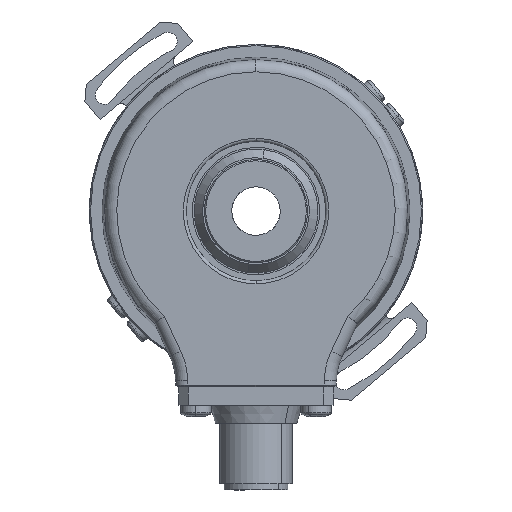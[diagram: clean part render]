
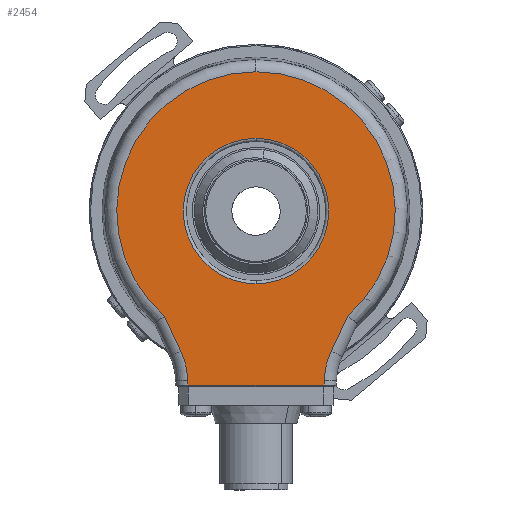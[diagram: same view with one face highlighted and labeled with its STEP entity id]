
A CAD part, left-side view. The second image highlights one B-rep face of the part: STEP entity #2454.
In plain terms, the highlighted planar face has unit normal (-1, 0, 0).
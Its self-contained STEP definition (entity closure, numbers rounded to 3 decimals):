
#2160 = VERTEX_POINT ( 'NONE', #10926 ) ;
#2162 = EDGE_CURVE ( 'NONE', #2163, #2160, #10925, .T. ) ;
#2163 = VERTEX_POINT ( 'NONE', #10920 ) ;
#2186 = EDGE_CURVE ( 'NONE', #2312, #2194, #10947, .T. ) ;
#2193 = EDGE_CURVE ( 'NONE', #2194, #2195, #10986, .T. ) ;
#2194 = VERTEX_POINT ( 'NONE', #10977 ) ;
#2195 = VERTEX_POINT ( 'NONE', #10976 ) ;
#2221 = VERTEX_POINT ( 'NONE', #11102 ) ;
#2312 = VERTEX_POINT ( 'NONE', #11408 ) ;
#2314 = EDGE_CURVE ( 'NONE', #2221, #2312, #11409, .T. ) ;
#2330 = VERTEX_POINT ( 'NONE', #11466 ) ;
#2332 = EDGE_CURVE ( 'NONE', #2356, #2330, #11464, .T. ) ;
#2353 = VERTEX_POINT ( 'NONE', #11511 ) ;
#2356 = VERTEX_POINT ( 'NONE', #11505 ) ;
#2378 = EDGE_CURVE ( 'NONE', #2195, #2356, #11596, .T. ) ;
#2399 = ORIENTED_EDGE ( 'NONE', *, *, #2400, .T. ) ;
#2400 = EDGE_CURVE ( 'NONE', #2464, #2353, #11682, .T. ) ;
#2401 = ORIENTED_EDGE ( 'NONE', *, *, #2513, .T. ) ;
#2445 = ORIENTED_EDGE ( 'NONE', *, *, #2314, .T. ) ;
#2446 = ORIENTED_EDGE ( 'NONE', *, *, #2186, .T. ) ;
#2447 = ORIENTED_EDGE ( 'NONE', *, *, #2193, .T. ) ;
#2448 = ORIENTED_EDGE ( 'NONE', *, *, #2378, .T. ) ;
#2453 = EDGE_CURVE ( 'NONE', #2160, #2163, #11880, .T. ) ;
#2454 = ADVANCED_FACE ( 'NONE', ( #11875, #11874 ), #11910, .F. ) ;
#2455 = EDGE_LOOP ( 'NONE', ( #2456, #2457 ) ) ;
#2456 = ORIENTED_EDGE ( 'NONE', *, *, #2162, .T. ) ;
#2457 = ORIENTED_EDGE ( 'NONE', *, *, #2453, .T. ) ;
#2458 = EDGE_LOOP ( 'NONE', ( #2459, #2462, #2399, #2401, #2445, #2446, #2447, #2448, #2514 ) ) ;
#2459 = ORIENTED_EDGE ( 'NONE', *, *, #2460, .T. ) ;
#2460 = EDGE_CURVE ( 'NONE', #2330, #2461, #11905, .T. ) ;
#2461 = VERTEX_POINT ( 'NONE', #11901 ) ;
#2462 = ORIENTED_EDGE ( 'NONE', *, *, #2463, .T. ) ;
#2463 = EDGE_CURVE ( 'NONE', #2461, #2464, #11900, .T. ) ;
#2464 = VERTEX_POINT ( 'NONE', #11896 ) ;
#2513 = EDGE_CURVE ( 'NONE', #2353, #2221, #12073, .T. ) ;
#2514 = ORIENTED_EDGE ( 'NONE', *, *, #2332, .T. ) ;
#10920 = CARTESIAN_POINT ( 'NONE',  ( -21., 0., 12. ) ) ;
#10921 = DIRECTION ( 'NONE',  ( 0., 0., 1. ) ) ;
#10922 = DIRECTION ( 'NONE',  ( 1., 0., 0. ) ) ;
#10923 = CARTESIAN_POINT ( 'NONE',  ( -21., 0., 0. ) ) ;
#10924 = AXIS2_PLACEMENT_3D ( 'NONE', #10923, #10922, #10921 ) ;
#10925 = CIRCLE ( 'NONE', #10924, 12. ) ;
#10926 = CARTESIAN_POINT ( 'NONE',  ( -21., 0., -12. ) ) ;
#10943 = DIRECTION ( 'NONE',  ( 0., 0., 1. ) ) ;
#10944 = DIRECTION ( 'NONE',  ( -1., 0., 0. ) ) ;
#10945 = CARTESIAN_POINT ( 'NONE',  ( -21., 0., 0. ) ) ;
#10946 = AXIS2_PLACEMENT_3D ( 'NONE', #10945, #10944, #10943 ) ;
#10947 = CIRCLE ( 'NONE', #10946, 22.972 ) ;
#10976 = CARTESIAN_POINT ( 'NONE',  ( -21., 15.091, -17.32 ) ) ;
#10977 = CARTESIAN_POINT ( 'NONE',  ( -21., 0., 22.972 ) ) ;
#10978 = DIRECTION ( 'NONE',  ( 0., 0., 1. ) ) ;
#10979 = DIRECTION ( 'NONE',  ( -1., 0., 0. ) ) ;
#10980 = CARTESIAN_POINT ( 'NONE',  ( -21., 0., 0. ) ) ;
#10981 = AXIS2_PLACEMENT_3D ( 'NONE', #10980, #10979, #10978 ) ;
#10986 = CIRCLE ( 'NONE', #10981, 22.972 ) ;
#11102 = CARTESIAN_POINT ( 'NONE',  ( -21., -12.39, -23.112 ) ) ;
#11383 = CARTESIAN_POINT ( 'NONE',  ( -21., -14.953, -17.615 ) ) ;
#11405 = DIRECTION ( 'NONE',  ( 0., -0.423, 0.906 ) ) ;
#11406 = VECTOR ( 'NONE', #11405, 1000. ) ;
#11408 = CARTESIAN_POINT ( 'NONE',  ( -21., -15.091, -17.32 ) ) ;
#11409 = LINE ( 'NONE', #11383, #11406 ) ;
#11460 = DIRECTION ( 'NONE',  ( 0., 0., 1. ) ) ;
#11461 = DIRECTION ( 'NONE',  ( 1., 0., 0. ) ) ;
#11462 = CARTESIAN_POINT ( 'NONE',  ( -21., 23.266, -28.183 ) ) ;
#11463 = AXIS2_PLACEMENT_3D ( 'NONE', #11462, #11461, #11460 ) ;
#11464 = CIRCLE ( 'NONE', #11463, 12. ) ;
#11466 = CARTESIAN_POINT ( 'NONE',  ( -21., 11.268, -27.974 ) ) ;
#11505 = CARTESIAN_POINT ( 'NONE',  ( -21., 12.39, -23.112 ) ) ;
#11511 = CARTESIAN_POINT ( 'NONE',  ( -21., -11.268, -27.974 ) ) ;
#11593 = DIRECTION ( 'NONE',  ( 0., -0.423, -0.906 ) ) ;
#11594 = VECTOR ( 'NONE', #11593, 1000. ) ;
#11595 = CARTESIAN_POINT ( 'NONE',  ( -21., 12.39, -23.112 ) ) ;
#11596 = LINE ( 'NONE', #11595, #11594 ) ;
#11679 = DIRECTION ( 'NONE',  ( 0., -0.017, 1. ) ) ;
#11680 = VECTOR ( 'NONE', #11679, 1000. ) ;
#11681 = CARTESIAN_POINT ( 'NONE',  ( -21., -11.752, -0.205 ) ) ;
#11682 = LINE ( 'NONE', #11681, #11680 ) ;
#11874 = FACE_OUTER_BOUND ( 'NONE', #2458, .T. ) ;
#11875 = FACE_BOUND ( 'NONE', #2455, .T. ) ;
#11876 = DIRECTION ( 'NONE',  ( 0., 0., 1. ) ) ;
#11877 = DIRECTION ( 'NONE',  ( 1., 0., 0. ) ) ;
#11878 = CARTESIAN_POINT ( 'NONE',  ( -21., 0., 0. ) ) ;
#11879 = AXIS2_PLACEMENT_3D ( 'NONE', #11878, #11877, #11876 ) ;
#11880 = CIRCLE ( 'NONE', #11879, 12. ) ;
#11896 = CARTESIAN_POINT ( 'NONE',  ( -21., -11.255, -28.695 ) ) ;
#11897 = DIRECTION ( 'NONE',  ( 0., -1., 0. ) ) ;
#11898 = VECTOR ( 'NONE', #11897, 1000. ) ;
#11899 = CARTESIAN_POINT ( 'NONE',  ( -21., -11.25, -28.695 ) ) ;
#11900 = LINE ( 'NONE', #11899, #11898 ) ;
#11901 = CARTESIAN_POINT ( 'NONE',  ( -21., 11.255, -28.695 ) ) ;
#11902 = DIRECTION ( 'NONE',  ( 0., -0.017, -1. ) ) ;
#11903 = VECTOR ( 'NONE', #11902, 1000. ) ;
#11904 = CARTESIAN_POINT ( 'NONE',  ( -21., 11.752, -0.205 ) ) ;
#11905 = LINE ( 'NONE', #11904, #11903 ) ;
#11906 = DIRECTION ( 'NONE',  ( 0., 0., 1. ) ) ;
#11907 = DIRECTION ( 'NONE',  ( 1., 0., 0. ) ) ;
#11908 = CARTESIAN_POINT ( 'NONE',  ( -21., 0., 0. ) ) ;
#11909 = AXIS2_PLACEMENT_3D ( 'NONE', #11908, #11907, #11906 ) ;
#11910 = PLANE ( 'NONE',  #11909 ) ;
#12069 = DIRECTION ( 'NONE',  ( 0., 0., 1. ) ) ;
#12070 = DIRECTION ( 'NONE',  ( 1., 0., 0. ) ) ;
#12071 = CARTESIAN_POINT ( 'NONE',  ( -21., -23.266, -28.183 ) ) ;
#12072 = AXIS2_PLACEMENT_3D ( 'NONE', #12071, #12070, #12069 ) ;
#12073 = CIRCLE ( 'NONE', #12072, 12. ) ;
